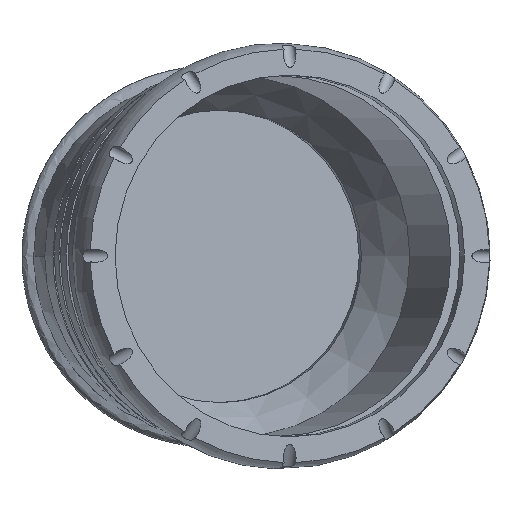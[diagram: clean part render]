
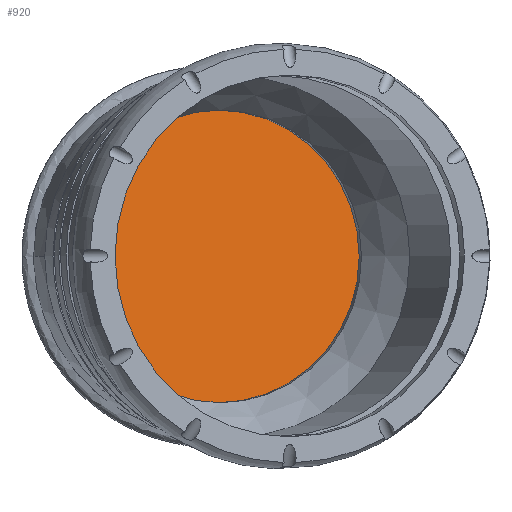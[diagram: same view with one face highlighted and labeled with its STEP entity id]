
A CAD part, top view. The second image highlights one B-rep face of the part: STEP entity #920.
In plain terms, the highlighted planar face has unit normal (0.259, 0, 0.966).
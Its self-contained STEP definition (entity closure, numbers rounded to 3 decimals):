
#79=ELLIPSE('',#986,57.044,55.1);
#80=ELLIPSE('',#987,57.044,55.1);
#95=PLANE('',#985);
#106=FACE_OUTER_BOUND('',#160,.T.);
#160=EDGE_LOOP('',(#599,#600,#601,#602,#603,#604,#605));
#236=CIRCLE('',#978,55.1);
#238=CIRCLE('',#980,55.1);
#240=CIRCLE('',#982,55.1);
#291=B_SPLINE_CURVE_WITH_KNOTS('',3,(#1547,#1548,#1549,#1550),
 .UNSPECIFIED.,.F.,.F.,(4,4),(-0.032,0.),.UNSPECIFIED.);
#292=B_SPLINE_CURVE_WITH_KNOTS('',3,(#1552,#1553,#1554,#1555),
 .UNSPECIFIED.,.F.,.F.,(4,4),(-4.631,-4.606),
 .UNSPECIFIED.);
#356=VERTEX_POINT('',#1316);
#357=VERTEX_POINT('',#1325);
#358=VERTEX_POINT('',#1383);
#360=VERTEX_POINT('',#1401);
#364=VERTEX_POINT('',#1513);
#366=VERTEX_POINT('',#1546);
#367=VERTEX_POINT('',#1551);
#453=EDGE_CURVE('',#356,#357,#236,.T.);
#456=EDGE_CURVE('',#358,#360,#238,.T.);
#464=EDGE_CURVE('',#357,#364,#240,.T.);
#466=EDGE_CURVE('',#364,#366,#291,.T.);
#467=EDGE_CURVE('',#367,#356,#292,.T.);
#468=EDGE_CURVE('',#360,#367,#79,.T.);
#469=EDGE_CURVE('',#366,#358,#80,.T.);
#599=ORIENTED_EDGE('',*,*,#466,.F.);
#600=ORIENTED_EDGE('',*,*,#464,.F.);
#601=ORIENTED_EDGE('',*,*,#453,.F.);
#602=ORIENTED_EDGE('',*,*,#467,.F.);
#603=ORIENTED_EDGE('',*,*,#468,.F.);
#604=ORIENTED_EDGE('',*,*,#456,.F.);
#605=ORIENTED_EDGE('',*,*,#469,.F.);
#920=ADVANCED_FACE('',(#106),#95,.F.);
#978=AXIS2_PLACEMENT_3D('',#1326,#1071,#1072);
#980=AXIS2_PLACEMENT_3D('',#1402,#1075,#1076);
#982=AXIS2_PLACEMENT_3D('',#1541,#1079,#1080);
#985=AXIS2_PLACEMENT_3D('',#1545,#1085,#1086);
#986=AXIS2_PLACEMENT_3D('',#1556,#1087,#1088);
#987=AXIS2_PLACEMENT_3D('',#1557,#1089,#1090);
#1071=DIRECTION('center_axis',(-0.259,0.,
-0.966));
#1072=DIRECTION('ref_axis',(0.966,0.,-0.259));
#1075=DIRECTION('center_axis',(-0.259,0.,
-0.966));
#1076=DIRECTION('ref_axis',(0.966,0.,-0.259));
#1079=DIRECTION('center_axis',(-0.259,0.,
-0.966));
#1080=DIRECTION('ref_axis',(0.966,0.,-0.259));
#1085=DIRECTION('center_axis',(-0.259,0.,
-0.966));
#1086=DIRECTION('ref_axis',(-0.966,0.,0.259));
#1087=DIRECTION('center_axis',(-0.259,0.,
-0.966));
#1088=DIRECTION('ref_axis',(0.966,0.,-0.259));
#1089=DIRECTION('center_axis',(-0.259,0.,
-0.966));
#1090=DIRECTION('ref_axis',(0.966,0.,-0.259));
#1316=CARTESIAN_POINT('',(32.741,-44.658,75.091));
#1325=CARTESIAN_POINT('',(-51.657,0.,97.705));
#1326=CARTESIAN_POINT('Origin',(1.566,0.,83.444));
#1383=CARTESIAN_POINT('',(45.957,30.396,71.55));
#1401=CARTESIAN_POINT('',(45.957,-30.396,71.55));
#1402=CARTESIAN_POINT('Origin',(1.566,0.,83.444));
#1513=CARTESIAN_POINT('',(32.741,44.658,75.091));
#1541=CARTESIAN_POINT('Origin',(1.566,0.,83.444));
#1545=CARTESIAN_POINT('Origin',(1.566,0.,83.444));
#1546=CARTESIAN_POINT('',(32.708,44.342,75.1));
#1547=CARTESIAN_POINT('Ctrl Pts',(32.741,44.658,75.091));
#1548=CARTESIAN_POINT('Ctrl Pts',(32.717,44.555,75.097));
#1549=CARTESIAN_POINT('Ctrl Pts',(32.708,44.448,75.1));
#1550=CARTESIAN_POINT('Ctrl Pts',(32.708,44.342,75.1));
#1551=CARTESIAN_POINT('',(32.708,-44.342,75.1));
#1552=CARTESIAN_POINT('Ctrl Pts',(32.708,-44.342,75.1));
#1553=CARTESIAN_POINT('Ctrl Pts',(32.708,-44.448,75.1));
#1554=CARTESIAN_POINT('Ctrl Pts',(32.717,-44.555,75.097));
#1555=CARTESIAN_POINT('Ctrl Pts',(32.741,-44.658,75.091));
#1556=CARTESIAN_POINT('Origin',(0.,0.,83.864));
#1557=CARTESIAN_POINT('Origin',(0.,0.,83.864));
